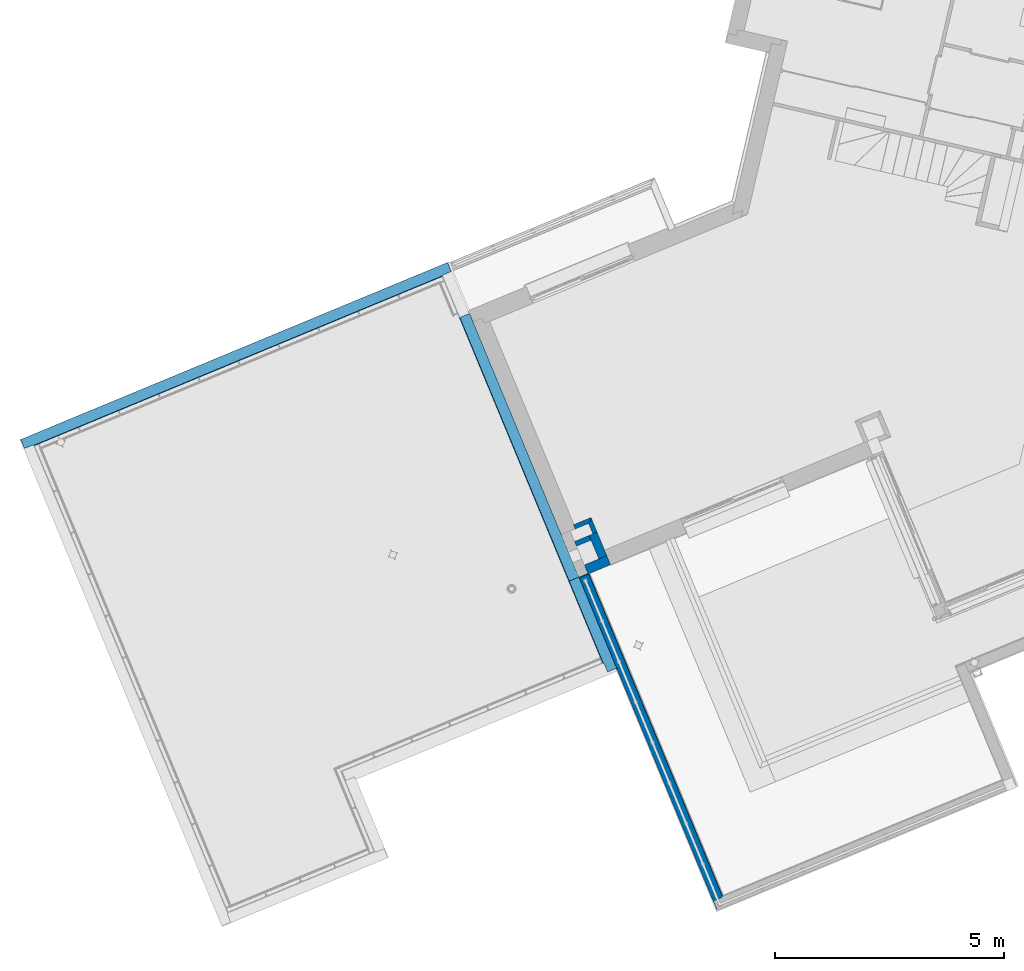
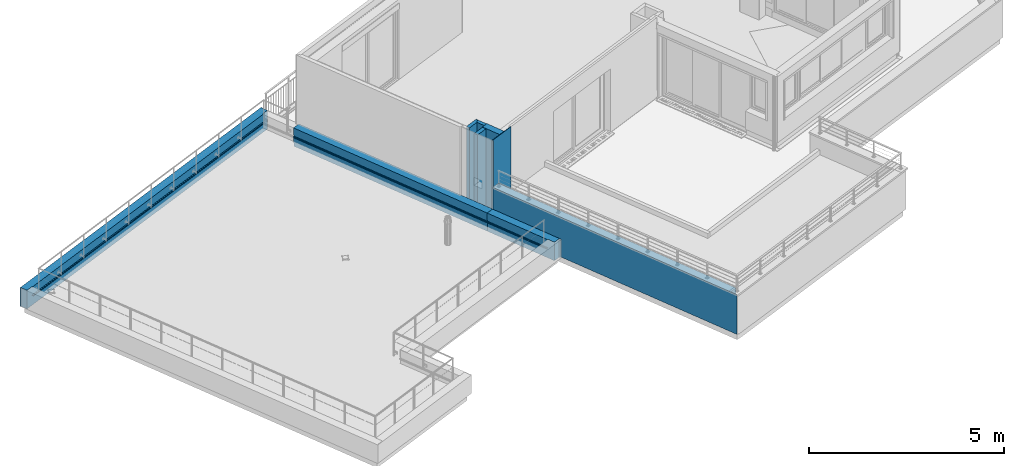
# One storey, part 19 of 62: 9 walls.
"""IFC2X3 building model written with IfcOpenShell, lengths in metres."""

import ifcopenshell
import ifcopenshell.guid

model = None  # the IFC model being written
_history = None  # IfcOwnerHistory: only IFC2X3 demands one
_inside = {}  # id of a spatial element -> (the spatial element, [elements in it])
_under = {}  # id of a project, library or spatial element -> (it, [spatial elements below it])
_declared = {}  # id of a project -> (the project, [libraries it declares])
_typed = {}  # id of a type object -> (the type object, [elements of that type])
_made_of = {}  # id of a material, layer set ... -> (it, [elements and type objects made of it])


def new_model(schema):
    """Start an empty IFC model of exactly this schema.

    Asked for "IFC4X3", IfcOpenShell would pick the latest addendum, in which some entities
    have other attributes; the version numbers below select the first issue.
    IFC2X3 requires an IfcOwnerHistory on every rooted entity: one is made here for all.
    """
    global model, _history
    if schema == "IFC4X3":
        model = ifcopenshell.file(schema_version=(4, 3, 0, 0))
    else:
        model = ifcopenshell.file(schema=schema)
    _inside.clear()
    _under.clear()
    _declared.clear()
    _typed.clear()
    _made_of.clear()
    _history = None
    if model.schema == "IFC2X3":
        org = make("IfcOrganization", Name="unknown")
        user = make(
            "IfcPersonAndOrganization",
            ThePerson=make("IfcPerson", FamilyName="unknown"),
            TheOrganization=org,
        )
        app = make(
            "IfcApplication",
            ApplicationDeveloper=org,
            Version="unknown",
            ApplicationFullName="unknown",
            ApplicationIdentifier="unknown",
        )
        _history = make(
            "IfcOwnerHistory",
            OwningUser=user,
            OwningApplication=app,
            ChangeAction="ADDED",
            CreationDate=0,
        )
    return model


def make(cls, **values):
    """One entity of the class cls with the attributes given. An attribute that is None is left unset."""
    return model.create_entity(
        cls, **{name: value for name, value in values.items() if value is not None}
    )


def entity(cls, *values):
    """Any entity or typed value of the class cls, its attributes in the order of the schema. None: left unset."""
    e = model.create_entity(cls)
    for i, value in enumerate(values):
        if value is not None:
            e[i] = value
    return e


def rooted(cls, **values):
    """An entity with a GlobalId (a new one), such as an element, a storey or a relation."""
    return make(cls, GlobalId=ifcopenshell.guid.new(), OwnerHistory=_history, **values)


def si_unit(unit_type, name, prefix=None):
    """IfcSIUnit, for example si_unit("LENGTHUNIT", "METRE", prefix="MILLI")."""
    return make("IfcSIUnit", UnitType=unit_type, Prefix=prefix, Name=name)


def converted_unit(unit_type, name, factor, base, dimensions=None, offset=None):
    """IfcConversionBasedUnit, such as the inch: factor (a typed value) times the base unit."""
    return make(
        "IfcConversionBasedUnit"
        if offset is None
        else "IfcConversionBasedUnitWithOffset",
        ConversionOffset=offset,
        Dimensions=None
        if dimensions is None
        else entity("IfcDimensionalExponents", *dimensions),
        UnitType=unit_type,
        Name=name,
        ConversionFactor=make(
            "IfcMeasureWithUnit", ValueComponent=factor, UnitComponent=base
        ),
    )


def derived_unit(unit_type, elements):
    """IfcDerivedUnit: a product of units, each with its exponent."""
    return make(
        "IfcDerivedUnit",
        Elements=[
            make("IfcDerivedUnitElement", Unit=unit, Exponent=power)
            for unit, power in elements
        ],
        UnitType=unit_type,
    )


def money_unit(currency):
    """IfcMonetaryUnit."""
    return make("IfcMonetaryUnit", Currency=currency)


def assignment(units):
    """IfcUnitAssignment: the units of a project."""
    return None if units is None else make("IfcUnitAssignment", Units=units)


def point(xyz):
    """IfcCartesianPoint."""
    return None if xyz is None else make("IfcCartesianPoint", Coordinates=xyz)


def direction(xyz):
    """IfcDirection."""
    return None if xyz is None else make("IfcDirection", DirectionRatios=xyz)


def frame(location, z_axis=None, x_axis=None):
    """IfcAxis2Placement3D, a coordinate frame: its origin and axes. An axis left out is left unset."""
    return make(
        "IfcAxis2Placement3D",
        Location=point(location),
        Axis=direction(z_axis),
        RefDirection=direction(x_axis),
    )


def origin_with_axes():
    """The frame at (0, 0, 0) with the z axis (0, 0, 1) and the x axis (1, 0, 0) written out."""
    return frame((0.0, 0.0, 0.0), z_axis=(0.0, 0.0, 1.0), x_axis=(1.0, 0.0, 0.0))


def place(relative_to, where):
    """IfcLocalPlacement: puts the frame where relative to a parent placement (None: the world)."""
    return make(
        "IfcLocalPlacement", PlacementRelTo=relative_to, RelativePlacement=where
    )


def context(
    kind, dimensions, precision=None, world=None, true_north=None, identifier=None
):
    """IfcGeometricRepresentationContext, for example the 3D "Model" context."""
    return make(
        "IfcGeometricRepresentationContext",
        ContextIdentifier=identifier,
        ContextType=kind,
        CoordinateSpaceDimension=dimensions,
        Precision=precision,
        WorldCoordinateSystem=world,
        TrueNorth=true_north,
    )


def subcontext(parent, identifier, kind, view, scale=None):
    """IfcGeometricRepresentationSubContext, for example "Body" below "Model"."""
    return make(
        "IfcGeometricRepresentationSubContext",
        ContextIdentifier=identifier,
        ContextType=kind,
        ParentContext=parent,
        TargetScale=scale,
        TargetView=view,
    )


def project(units=None, contexts=None):
    """IfcProject with its units and contexts."""
    return rooted(
        "IfcProject",
        Name="project",
        RepresentationContexts=contexts,
        UnitsInContext=assignment(units),
    )


def spatial(cls, under=None, at=None, **own):
    """A site, building, storey or space (cls), placed at a placement, below another one or the project."""
    s = rooted(cls, ObjectPlacement=at, **own)
    if under is not None:
        _under.setdefault(under.id(), (under, []))[1].append(s)
    return s


def faces_of(points, faces, orient=None, outer=None):
    """IfcFace entities. A face is a list of loops; a loop is a list of indices into points, from 0.

    orient and outer hold one flag for each loop. By default every Orientation is true, the
    first loop of a face is its IfcFaceOuterBound and the others are IfcFaceBound.
    """
    made = []
    for i, loops in enumerate(faces):
        bounds = []
        for j, loop in enumerate(loops):
            is_outer = j == 0 if outer is None else outer[i][j]
            bounds.append(
                make(
                    "IfcFaceOuterBound" if is_outer else "IfcFaceBound",
                    Bound=make("IfcPolyLoop", Polygon=[points[k] for k in loop]),
                    Orientation=True if orient is None else orient[i][j],
                )
            )
        made.append(make("IfcFace", Bounds=bounds))
    return made


def faceted_brep(points, faces, orient=None, outer=None, voids=None):
    """IfcFacetedBrep: a solid bounded by flat faces; with voids (closed shells), ...WithVoids."""
    shared = [point(p) for p in points]
    hull = make("IfcClosedShell", CfsFaces=faces_of(shared, faces, orient, outer))
    if voids is None:
        return make("IfcFacetedBrep", Outer=hull)
    return make(
        "IfcFacetedBrepWithVoids",
        Outer=hull,
        Voids=[
            make(cls, CfsFaces=faces_of(shared, fs, o, b)) for cls, fs, o, b in voids
        ],
    )


def shape(context_of_items, identifier, shape_type, items):
    """IfcShapeRepresentation: the items that make up one representation, for example the "Body"."""
    return make(
        "IfcShapeRepresentation",
        ContextOfItems=context_of_items,
        RepresentationIdentifier=identifier,
        RepresentationType=shape_type,
        Items=items,
    )


def material(Name=None, Category=None):
    """IfcMaterial."""
    return make("IfcMaterial", Name=Name, Category=Category)


def material_list(materials):
    """IfcMaterialList."""
    return make("IfcMaterialList", Materials=materials)


def made_of(thing, what):
    """Note that an element or type object is made of a material, layer set ...; save() writes the relation."""
    if what is not None:
        _made_of.setdefault(what.id(), (what, []))[1].append(thing)
    return thing


def type_object(cls, material=None, **own):
    """A type object (cls), such as IfcWallType, which elements share."""
    return made_of(rooted(cls, **own), material)


def element(
    cls,
    number,
    at=None,
    inside=None,
    cuts=None,
    type_object=None,
    material=None,
    context=None,
    identifier="Body",
    shape_type=None,
    held_by="IfcProductDefinitionShape",
    body=None,
    shapes=None,
    **own,
):
    """One element of the class cls, such as IfcWall. Its Tag is "e" and its number.

    at: its placement. inside: the storey or other place that contains it. cuts: it is an
    opening in that element (IfcRelVoidsElement). A single representation is given by context,
    identifier, shape_type and body (its items); several are given by shapes. held_by: the class
    of the entity that holds the representations. save() writes the other relations.
    """
    e = rooted(cls, Tag="e%d" % number, ObjectPlacement=at, **own)
    if body is not None:
        shapes = [shape(context, identifier, shape_type, body)]
    if shapes is not None:
        e.Representation = make(held_by, Representations=shapes)
    if inside is not None:
        _inside.setdefault(inside.id(), (inside, []))[1].append(e)
    if cuts is not None:
        rooted(
            "IfcRelVoidsElement", RelatingBuildingElement=cuts, RelatedOpeningElement=e
        )
    if type_object is not None:
        _typed.setdefault(type_object.id(), (type_object, []))[1].append(e)
    return made_of(e, material)


def aggregate(whole, parts):
    """IfcRelAggregates: a whole, such as a stair, and the parts it consists of."""
    return rooted("IfcRelAggregates", RelatingObject=whole, RelatedObjects=parts)


def save(model, path):
    """Write the relations noted so far, then the file.

    IfcRelAggregates (storeys below a building ...), IfcRelContainedInSpatialStructure (elements
    in a storey), IfcRelDefinesByType, IfcRelAssociatesMaterial and IfcRelDeclares: one each for
    every whole, place, type object, material and project.
    """
    for whole, parts in _under.values():
        aggregate(whole, parts)
    for where, things in _inside.values():
        rooted(
            "IfcRelContainedInSpatialStructure",
            RelatedElements=things,
            RelatingStructure=where,
        )
    for kind, things in _typed.values():
        rooted("IfcRelDefinesByType", RelatedObjects=things, RelatingType=kind)
    for what, things in _made_of.values():
        rooted("IfcRelAssociatesMaterial", RelatedObjects=things, RelatingMaterial=what)
    for by, libraries in _declared.values():
        rooted("IfcRelDeclares", RelatingContext=by, RelatedDefinitions=libraries)
    model.write(path)


model = new_model("IFC2X3")

# Units and contexts
model_context = context("Model", 3, precision=1e-05, world=origin_with_axes(), true_north=direction((0.0, 1.0)))
body_context = subcontext(model_context, "Body", "Model", "MODEL_VIEW")
ifc_project = project(units=[si_unit("LENGTHUNIT", "METRE"), si_unit("AREAUNIT", "SQUARE_METRE"), si_unit("VOLUMEUNIT", "CUBIC_METRE"), converted_unit("PLANEANGLEUNIT", "DEGREE", entity("IfcPlaneAngleMeasure", 0.0174532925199), si_unit("PLANEANGLEUNIT", "RADIAN"), dimensions=[0, 0, 0, 0, 0, 0, 0]), si_unit("SOLIDANGLEUNIT", "STERADIAN"), money_unit("EUR"), converted_unit("TIMEUNIT", "Year", entity("IfcTimeMeasure", 31556926.0), si_unit("TIMEUNIT", "SECOND"), dimensions=[0, 0, 1, 0, 0, 0, 0]), si_unit("MASSUNIT", "GRAM", prefix="KILO"), si_unit("THERMODYNAMICTEMPERATUREUNIT", "DEGREE_CELSIUS"), si_unit("LUMINOUSINTENSITYUNIT", "LUMEN"), si_unit("ENERGYUNIT", "JOULE", prefix="MEGA"), derived_unit("THERMALCONDUCTANCEUNIT", [(si_unit("POWERUNIT", "WATT"), 1), (si_unit("LENGTHUNIT", "METRE"), -1), (si_unit("THERMODYNAMICTEMPERATUREUNIT", "KELVIN"), -1)]), derived_unit("SPECIFICHEATCAPACITYUNIT", [(si_unit("ENERGYUNIT", "JOULE"), 1), (si_unit("MASSUNIT", "GRAM", prefix="KILO"), -1), (si_unit("THERMODYNAMICTEMPERATUREUNIT", "KELVIN"), -1)]), derived_unit("MASSDENSITYUNIT", [(si_unit("MASSUNIT", "GRAM", prefix="KILO"), 1), (si_unit("VOLUMEUNIT", "CUBIC_METRE"), -1)])], contexts=[model_context])

# Site, building, storey
site_placement = place(None, origin_with_axes())
site = spatial("IfcSite", under=ifc_project, at=site_placement, Name="Site", CompositionType="ELEMENT")
building_placement = place(site_placement, origin_with_axes())
building = spatial("IfcBuilding", under=site, at=building_placement, Name="Bâtiment", CompositionType="ELEMENT")
storey_placement = place(building_placement, frame((0.0, 0.0, 8.16), z_axis=(0.0, 0.0, 1.0), x_axis=(1.0, 0.0, 0.0)))
storey = spatial("IfcBuildingStorey", under=building, at=storey_placement, Name="R+3", CompositionType="ELEMENT", Elevation=8.16)

# Walls
ifc_material_1 = material(Name="Finition int - Enduit plâtre")
ifc_material_2 = material(Name="Béton")
ifc_material_list_1 = material_list([ifc_material_1, ifc_material_2])
wall_type_1 = type_object("IfcWallType", Name="2 - Murs Béton 18 + Enduit 1 Face 190", PredefinedType="USERDEFINED")
wall_1_placement = place(storey_placement, frame((-22.9500964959, -20.0325089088, 0.0), z_axis=(0.0, 0.0, 1.0), x_axis=(0.3831125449, -0.923701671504, 0.0)))
element("IfcWall", 1, at=wall_1_placement, inside=storey, type_object=wall_type_1, material=ifc_material_list_1, Name="M_Ext-008", ObjectType="SOLIDWALL", context=body_context, shape_type="Brep", body=[
    faceted_brep([(0.0, 0.19, 0.0), (0.555635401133, 0.19, 0.0), (0.555635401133, 0.18, 0.0), (0.0, 0.18, 0.0), (0.0, 0.19, 2.51), (0.555635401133, 0.19, 2.51), (0.555635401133, 0.18, 2.51), (0.0, 0.18, 2.51)], [[[0, 1, 2, 3]], [[4, 5, 1, 0]], [[2, 1, 5, 6]], [[3, 2, 6, 7]], [[4, 0, 3, 7]], [[7, 6, 5, 4]]]),
    faceted_brep([(0.0, 0.18, 0.0), (0.555635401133, 0.18, 0.0), (0.555635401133, 0.0, 0.0), (0.0, 0.0, 0.0), (0.0, 0.18, 2.51), (0.555635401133, 0.18, 2.51), (0.555635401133, 0.0, 2.51), (0.0, 0.0, 2.51)], [[[0, 1, 2, 3]], [[4, 5, 1, 0]], [[2, 1, 5, 6]], [[3, 2, 6, 7]], [[4, 0, 3, 7]], [[7, 6, 5, 4]]]),
])
ifc_material_3 = material(Name="Finition int - Plaque de plâtre")
ifc_material_4 = material(Name="Isolation - Laine de roche")
ifc_material_list_2 = material_list([ifc_material_3, ifc_material_3, ifc_material_4, ifc_material_3, ifc_material_3])
wall_type_2 = type_object("IfcWallType", Name="3 - Cloison Gaine Technique 98mm 100", PredefinedType="USERDEFINED")
wall_2_placement = place(storey_placement, frame((-23.291347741, -19.7979884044, 0.0), z_axis=(0.0, 0.0, 1.0), x_axis=(0.923701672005, 0.383112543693, 0.0)))
element("IfcWall", 2, at=wall_2_placement, inside=storey, type_object=wall_type_2, material=ifc_material_list_2, Name="Cloison 98 isolée", ObjectType="PARTITIONING", context=body_context, shape_type="Brep", body=[
    faceted_brep([(0.415366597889, -0.013, 2.5), (0.415366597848, 0.0, 2.5), (0.0, 0.0, 2.5), (0.0, -0.013, 2.5), (0.415366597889, -0.013, 0.0), (0.415366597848, 0.0, 0.0), (0.0, 0.0, 0.0), (0.0, -0.013, 0.0)], [[[0, 1, 2, 3]], [[1, 0, 4, 5]], [[1, 5, 6, 2]], [[7, 3, 2, 6]], [[4, 0, 3, 7]], [[5, 4, 7, 6]]]),
    faceted_brep([(0.40236659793, -0.026, 2.5), (0.402366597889, -0.013, 2.5), (0.0, -0.013, 2.5), (0.0, -0.026, 2.5), (0.40236659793, -0.026, 0.0), (0.402366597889, -0.013, 0.0), (0.0, -0.013, 0.0), (0.0, -0.026, 0.0)], [[[0, 1, 2, 3]], [[1, 0, 4, 5]], [[1, 5, 6, 2]], [[7, 3, 2, 6]], [[4, 0, 3, 7]], [[5, 4, 7, 6]]]),
    faceted_brep([(0.389366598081, -0.074, 2.5), (0.38936659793, -0.026, 2.5), (0.0, -0.026, 2.5), (0.0, -0.074, 2.5), (0.389366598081, -0.074, 0.0), (0.38936659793, -0.026, 0.0), (0.0, -0.026, 0.0), (0.0, -0.074, 0.0)], [[[0, 1, 2, 3]], [[1, 0, 4, 5]], [[1, 5, 6, 2]], [[7, 3, 2, 6]], [[4, 0, 3, 7]], [[5, 4, 7, 6]]]),
    faceted_brep([(0.341366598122, -0.087, 2.5), (0.341366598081, -0.074, 2.5), (0.0, -0.074, 2.5), (0.0, -0.087, 2.5), (0.341366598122, -0.087, 0.0), (0.341366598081, -0.074, 0.0), (0.0, -0.074, 0.0), (0.0, -0.087, 0.0)], [[[0, 1, 2, 3]], [[1, 0, 4, 5]], [[1, 5, 6, 2]], [[7, 3, 2, 6]], [[4, 0, 3, 7]], [[5, 4, 7, 6]]]),
    faceted_brep([(0.328366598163, -0.1, 2.5), (0.328366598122, -0.087, 2.5), (0.0, -0.087, 2.5), (0.0, -0.1, 2.5), (0.328366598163, -0.1, 0.0), (0.328366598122, -0.087, 0.0), (0.0, -0.087, 0.0), (0.0, -0.1, 0.0)], [[[0, 1, 2, 3]], [[1, 0, 4, 5]], [[1, 5, 6, 2]], [[7, 3, 2, 6]], [[4, 0, 3, 7]], [[5, 4, 7, 6]]]),
])
wall_3_placement = place(storey_placement, frame((-22.90767292, -19.6388562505, 0.0), z_axis=(0.0, 0.0, 1.0), x_axis=(0.3831125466, -0.9237016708, 0.0)))
element("IfcWall", 3, at=wall_3_placement, inside=storey, type_object=wall_type_2, material=ifc_material_list_2, Name="Cloison 98 isolée", ObjectType="PARTITIONING", context=body_context, shape_type="Brep", body=[
    faceted_brep([(0.0129999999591, -0.013, 2.5), (0.34736461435, -0.013, 2.5), (0.34736461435, 0.0, 2.5), (0.013, 0.0, 2.5), (0.0129999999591, -0.013, 0.0), (0.34736461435, -0.013, 0.0), (0.34736461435, 0.0, 0.0), (0.013, 0.0, 0.0)], [[[0, 1, 2, 3]], [[4, 5, 1, 0]], [[2, 1, 5, 6]], [[3, 2, 6, 7]], [[4, 0, 3, 7]], [[7, 6, 5, 4]]]),
    faceted_brep([(0.0259999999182, -0.026, 2.5), (0.34736461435, -0.026, 2.5), (0.34736461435, -0.013, 2.5), (0.0259999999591, -0.013, 2.5), (0.0259999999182, -0.026, 0.0), (0.34736461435, -0.026, 0.0), (0.34736461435, -0.013, 0.0), (0.0259999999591, -0.013, 0.0)], [[[0, 1, 2, 3]], [[4, 5, 1, 0]], [[2, 1, 5, 6]], [[3, 2, 6, 7]], [[4, 0, 3, 7]], [[7, 6, 5, 4]]]),
    faceted_brep([(0.0739999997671, -0.074, 2.5), (0.34736461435, -0.074, 2.5), (0.34736461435, -0.026, 2.5), (0.0739999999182, -0.026, 2.5), (0.0739999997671, -0.074, 0.0), (0.34736461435, -0.074, 0.0), (0.34736461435, -0.026, 0.0), (0.0739999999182, -0.026, 0.0)], [[[0, 1, 2, 3]], [[4, 5, 1, 0]], [[2, 1, 5, 6]], [[3, 2, 6, 7]], [[4, 0, 3, 7]], [[7, 6, 5, 4]]]),
    faceted_brep([(0.0869999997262, -0.087, 2.5), (0.34736461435, -0.087, 2.5), (0.34736461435, -0.074, 2.5), (0.0869999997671, -0.074, 2.5), (0.0869999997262, -0.087, 0.0), (0.34736461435, -0.087, 0.0), (0.34736461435, -0.074, 0.0), (0.0869999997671, -0.074, 0.0)], [[[0, 1, 2, 3]], [[4, 5, 1, 0]], [[2, 1, 5, 6]], [[3, 2, 6, 7]], [[4, 0, 3, 7]], [[7, 6, 5, 4]]]),
    faceted_brep([(0.0999999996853, -0.1, 2.5), (0.34736461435, -0.1, 2.5), (0.34736461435, -0.087, 2.5), (0.0999999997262, -0.087, 2.5), (0.0999999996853, -0.1, 0.0), (0.34736461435, -0.1, 0.0), (0.34736461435, -0.087, 0.0), (0.0999999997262, -0.087, 0.0)], [[[0, 1, 2, 3]], [[4, 5, 1, 0]], [[2, 1, 5, 6]], [[3, 2, 6, 7]], [[4, 0, 3, 7]], [[7, 6, 5, 4]]]),
])
ifc_material_5 = material(Name="Finition int - Plaque type PROMAT 5cm")
ifc_material_list_3 = material_list([ifc_material_3, ifc_material_4, ifc_material_5])
wall_type_3 = type_object("IfcWallType", Name="3 - Cloison CF 2H PROMAT 111", PredefinedType="USERDEFINED")
wall_4_placement = place(storey_placement, frame((-23.4113270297, -20.3439765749, 0.0), z_axis=(0.0, 0.0, 1.0), x_axis=(0.923701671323, 0.383112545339, 0.0)))
element("IfcWall", 4, at=wall_4_placement, inside=storey, type_object=wall_type_3, material=ifc_material_list_3, Name="Cloison CF Promat 5cm", ObjectType="PARTITIONING", context=body_context, shape_type="Brep", body=[
    faceted_brep([(0.54536658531, 0.111, 2.5), (0.200000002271, 0.111, 2.5), (0.200000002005, 0.098, 2.5), (0.545366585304, 0.098, 2.5), (0.54536658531, 0.111, 0.0), (0.200000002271, 0.111, 0.0), (0.200000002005, 0.098, 0.0), (0.545366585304, 0.098, 0.0)], [[[0, 1, 2, 3]], [[4, 5, 1, 0]], [[5, 6, 2, 1]], [[3, 2, 6, 7]], [[4, 0, 3, 7]], [[7, 6, 5, 4]]]),
    faceted_brep([(0.545366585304, 0.098, 2.5), (0.200000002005, 0.098, 2.5), (0.200000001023, 0.05, 2.5), (0.545366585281, 0.05, 2.5), (0.545366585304, 0.098, 0.0), (0.200000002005, 0.098, 0.0), (0.200000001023, 0.05, 0.0), (0.545366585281, 0.05, 0.0)], [[[0, 1, 2, 3]], [[4, 5, 1, 0]], [[5, 6, 2, 1]], [[3, 2, 6, 7]], [[4, 0, 3, 7]], [[7, 6, 5, 4]]]),
    faceted_brep([(0.545366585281, 0.05, 2.5), (0.200000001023, 0.05, 2.5), (0.2, 0.0, 2.5), (0.545366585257, 0.0, 2.5), (0.545366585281, 0.05, 0.0), (0.200000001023, 0.05, 0.0), (0.2, 0.0, 0.0), (0.545366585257, 0.0, 0.0)], [[[0, 1, 2, 3]], [[4, 5, 1, 0]], [[5, 6, 2, 1]], [[3, 2, 6, 7]], [[4, 0, 3, 7]], [[7, 6, 5, 4]]]),
])
ifc_material_6 = material(Name="Finition ext - Crépis")
ifc_material_list_4 = material_list([ifc_material_6, ifc_material_2])
wall_type_4 = type_object("IfcWallType", Name="1 - Mur BETON 20+ ravalement 1 face 215", PredefinedType="USERDEFINED")
wall_5_placement = place(storey_placement, frame((-22.4850997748, -20.6576992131, 0.0), z_axis=(0.0, 0.0, 1.0), x_axis=(-0.923701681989, -0.38311251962, 0.0)))
element("IfcWall", 5, at=wall_5_placement, inside=storey, type_object=wall_type_4, material=ifc_material_list_4, Name="M_Ext-009", ObjectType="SOLIDWALL", context=body_context, shape_type="Brep", body=[
    faceted_brep([(0.535366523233, 0.015, 0.0), (0.535366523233, 0.015, 0.1), (0.0, 0.015, 0.1), (0.0, 0.015, 2.74), (0.750366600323, 0.015, 2.73999999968), (0.75036659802, 0.015, 2.72), (0.73536659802, 0.015, 2.72), (0.73536659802, 0.015, 0.0), (0.53536652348, -3.28998694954e-09, 0.0), (0.53536652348, -3.28998694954e-09, 0.1), (0.0, -1.88589748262e-08, 0.1), (0.0, 0.0, 2.74), (0.750366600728, 0.0, 2.73999999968), (0.75036659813, 0.0, 2.72), (0.73536659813, 0.0, 2.72), (0.73536659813, 0.0, 0.0)], [[[0, 1, 2, 3, 4, 5, 6, 7]], [[1, 0, 8, 9]], [[10, 2, 1, 9]], [[2, 10, 11, 3]], [[3, 11, 12, 4]], [[12, 13, 5, 4]], [[14, 6, 5, 13]], [[15, 7, 6, 14]], [[8, 0, 7, 15]], [[9, 8, 15, 14, 13, 12, 11, 10]]]),
    faceted_brep([(0.0, -0.2, 2.51), (0.0, -7.17849903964e-08, 2.51), (0.0, 0.0, 0.0), (0.0, -0.2, 0.0), (0.53536659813, -6.13296702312e-08, 2.51), (0.535366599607, -0.2, 2.51), (0.53536659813, 0.0, 0.0), (0.535366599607, -0.2, 0.0)], [[[0, 1, 2, 3]], [[4, 1, 0, 5]], [[1, 4, 6, 2]], [[2, 6, 7, 3]], [[5, 0, 3, 7]], [[4, 5, 7, 6]]]),
])
ifc_material_7 = material(Name="Etanchéité - Bitume")
ifc_material_8 = material(Name="Métal - Aluminium")
ifc_material_list_5 = material_list([ifc_material_6, ifc_material_2, ifc_material_7, ifc_material_6, ifc_material_8])
wall_type_5 = type_object("IfcWallType", Name="Acrotère pour plancher 21 isolée 242 x 580", PredefinedType="USERDEFINED")
wall_6_placement = place(storey_placement, frame((-23.1735961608, -20.943258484, 0.0), z_axis=(0.0, 0.0, 1.0), x_axis=(0.383112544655, -0.923701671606, 0.0)))
element("IfcWall", 6, at=wall_6_placement, inside=storey, type_object=wall_type_5, material=ifc_material_list_5, Name="Muret béton 20cm", ObjectType="PARAPET", context=body_context, shape_type="Brep", body=[
    faceted_brep([(0.0, -0.01499999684, 0.580000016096), (2.19744913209, -0.01499999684, 0.58000001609), (2.19744913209, 1.62940949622e-09, 0.580000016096), (0.0, 0.0, 0.580000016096), (0.0, -0.01499999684, 0.0), (2.19744913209, -0.01499999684, 0.0), (2.19744913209, 1.6294059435e-09, 0.0), (0.0, 0.0, 0.0)], [[[0, 1, 2, 3]], [[1, 0, 4, 5]], [[6, 2, 1, 5]], [[3, 2, 6, 7]], [[3, 7, 4, 0]], [[7, 6, 5, 4]]]),
    faceted_brep([(0.0, -0.21500000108, 0.580000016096), (2.1574491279, -0.21500000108, 0.580000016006), (2.1574491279, -0.015, 0.58000001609), (0.0, -0.015, 0.580000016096), (2.1574491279, -0.21500000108, 0.318976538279), (0.0, -0.21500000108, 0.318976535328), (2.1574491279, -0.015, 0.0), (2.1574491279, -0.21500000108, 0.30999999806), (2.1574491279, -0.21500000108, 0.0999999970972), (2.1574491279, -0.21500000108, 0.0), (0.0, -0.015, 0.0), (0.0, -0.21500000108, 0.310000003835), (0.0, -0.21500000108, 0.0), (0.0, -0.21500000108, 0.0999999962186)], [[[0, 1, 2, 3]], [[4, 1, 0, 5]], [[6, 2, 1, 4, 7, 8, 9]], [[3, 2, 6, 10]], [[11, 5, 0, 3, 10, 12, 13]], [[11, 7, 4, 5]], [[8, 7, 11, 13]], [[12, 9, 8, 13]], [[10, 6, 9, 12]]]),
    faceted_brep([(1.9574491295, -0.224999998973, 0.11), (1.9574491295, -0.215000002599, 0.11), (1.95744912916, -0.21500000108, 0.30999999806), (1.95744912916, -0.224999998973, 0.30999999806), (0.0, -0.215000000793, 0.11), (0.0, -0.224999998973, 0.11), (0.0, -0.21500000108, 0.310000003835), (0.0, -0.224999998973, 0.310000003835)], [[[0, 1, 2, 3]], [[4, 1, 0, 5]], [[1, 4, 6, 2]], [[7, 3, 2, 6]], [[5, 0, 3, 7]], [[4, 5, 7, 6]]]),
    faceted_brep([(1.95744912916, -0.22999999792, 0.580000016), (1.95744912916, -0.21500000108, 0.580000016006), (0.0, -0.21500000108, 0.580000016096), (0.0, -0.22999999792, 0.580000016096), (1.95744912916, -0.21500000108, 0.357041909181), (1.95744912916, -0.22999999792, 0.35704190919), (1.95744912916, -0.216045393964, 0.357041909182), (0.0, -0.21500000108, 0.357041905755), (0.0, -0.216045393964, 0.357041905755), (0.0, -0.22999999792, 0.357041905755)], [[[0, 1, 2, 3]], [[4, 1, 0, 5, 6]], [[1, 4, 7, 2]], [[8, 9, 3, 2, 7]], [[5, 0, 3, 9]], [[6, 5, 9, 8]], [[4, 6, 8, 7]]]),
    faceted_brep([(1.95744912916, -0.216045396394, 0.357041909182), (1.95744912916, -0.215, 0.357041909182), (0.0, -0.215, 0.357041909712), (0.0, -0.216045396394, 0.357041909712), (1.95744912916, -0.215, 0.318976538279), (1.95744912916, -0.216045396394, 0.320023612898), (1.95744912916, -0.219574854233, 0.318976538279), (0.0, -0.215, 0.318976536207), (0.0, -0.241250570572, 0.282882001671), (0.0, -0.242484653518, 0.282882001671), (0.0, -0.242484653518, 0.312179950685), (0.0, -0.216045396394, 0.320023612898), (0.0, -0.241250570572, 0.311101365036), (1.93479385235, -0.242484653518, 0.312179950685), (1.93119855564, -0.242484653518, 0.311101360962), (1.93119855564, -0.241250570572, 0.311101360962), (1.93119855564, -0.241250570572, 0.282882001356), (1.93119855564, -0.242484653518, 0.282882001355), (1.93119855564, -0.242484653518, 0.30999999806), (1.93119855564, -0.241250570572, 0.30999999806)], [[[0, 1, 2, 3]], [[4, 1, 0, 5, 6]], [[1, 4, 7, 2]], [[8, 9, 10, 11, 3, 2, 7, 12]], [[5, 0, 3, 11]], [[6, 5, 11, 10, 13]], [[4, 6, 13, 14, 15]], [[4, 15, 12, 7]], [[16, 17, 9, 8]], [[14, 13, 10, 9, 17, 18]], [[15, 19, 16, 8, 12]], [[19, 15, 14, 18]], [[19, 18, 17, 16]]]),
])
wall_7_placement = place(storey_placement, frame((-25.5660336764, -15.1749834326, 0.0), z_axis=(0.0, 0.0, 1.0), x_axis=(0.383112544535, -0.923701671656, 0.0)))
element("IfcWall", 7, at=wall_7_placement, inside=storey, type_object=wall_type_5, material=ifc_material_list_5, Name="Muret béton 20cm", ObjectType="PARAPET", context=body_context, shape_type="Brep", body=[
    faceted_brep([(0.0, -0.01499999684, 0.580000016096), (6.2447381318, -0.01499999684, 0.580000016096), (6.2447381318, 0.0, 0.580000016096), (0.0, 0.0, 0.580000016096), (0.0, -0.01499999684, 0.0), (6.2447381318, -0.01499999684, 0.0), (6.2447381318, 0.0, 0.0), (0.0, 0.0, 0.0)], [[[0, 1, 2, 3]], [[4, 5, 1, 0]], [[2, 1, 5, 6]], [[3, 2, 6, 7]], [[4, 0, 3, 7]], [[7, 6, 5, 4]]]),
    faceted_brep([(0.0, -0.015, 0.580000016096), (6.2447381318, -0.015, 0.580000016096), (6.2447381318, -0.015, 0.0), (0.0, -0.015, 0.0), (0.0, -0.21500000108, 0.580000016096), (6.2447381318, -0.21500000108, 0.580000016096), (6.2447381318, -0.21500000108, 0.318976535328), (6.2447381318, -0.21500000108, 0.310000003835), (6.2447381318, -0.21500000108, 0.0999999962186), (6.2447381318, -0.21500000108, 0.0), (0.0, -0.21500000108, 0.0), (0.0, -0.21500000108, 0.0999999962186), (0.0, -0.21500000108, 0.310000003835), (0.0, -0.21500000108, 0.318976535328)], [[[0, 1, 2, 3]], [[4, 5, 1, 0]], [[2, 1, 5, 6, 7, 8, 9]], [[3, 2, 9, 10]], [[4, 0, 3, 10, 11, 12, 13]], [[13, 6, 5, 4]], [[12, 7, 6, 13]], [[11, 8, 7, 12]], [[10, 9, 8, 11]]]),
    faceted_brep([(6.2447381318, -0.224999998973, 0.11), (6.2447381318, -0.215000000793, 0.11), (6.2447381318, -0.21500000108, 0.310000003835), (6.2447381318, -0.224999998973, 0.310000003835), (0.0, -0.214999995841, 0.11), (0.0, -0.224999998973, 0.11), (0.0, -0.21500000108, 0.310000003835), (0.0, -0.224999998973, 0.310000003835)], [[[0, 1, 2, 3]], [[4, 1, 0, 5]], [[1, 4, 6, 2]], [[7, 3, 2, 6]], [[5, 0, 3, 7]], [[4, 5, 7, 6]]]),
    faceted_brep([(6.2447381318, -0.22999999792, 0.580000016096), (6.2447381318, -0.21500000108, 0.580000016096), (0.0, -0.21500000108, 0.580000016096), (0.0, -0.22999999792, 0.580000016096), (6.2447381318, -0.22999999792, 0.357041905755), (6.2447381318, -0.216045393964, 0.357041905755), (6.2447381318, -0.21500000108, 0.357041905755), (0.0, -0.21500000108, 0.357041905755), (0.0, -0.216045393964, 0.357041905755), (0.0, -0.22999999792, 0.357041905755)], [[[0, 1, 2, 3]], [[0, 4, 5, 6, 1]], [[1, 6, 7, 2]], [[3, 2, 7, 8, 9]], [[4, 0, 3, 9]], [[5, 4, 9, 8]], [[6, 5, 8, 7]]]),
    faceted_brep([(6.2447381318, -0.242484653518, 0.312179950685), (6.2447381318, -0.216045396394, 0.320023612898), (0.0, -0.216045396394, 0.320023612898), (0.0, -0.242484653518, 0.312179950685), (6.2447381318, -0.242484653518, 0.282882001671), (6.2447381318, -0.241250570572, 0.282882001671), (6.2447381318, -0.241250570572, 0.311101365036), (6.2447381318, -0.215, 0.318976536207), (6.2447381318, -0.215, 0.357041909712), (6.2447381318, -0.216045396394, 0.357041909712), (0.0, -0.216045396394, 0.357041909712), (0.0, -0.215, 0.357041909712), (0.0, -0.215, 0.318976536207), (0.0, -0.241250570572, 0.311101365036), (0.0, -0.241250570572, 0.282882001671), (0.0, -0.242484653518, 0.282882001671)], [[[0, 1, 2, 3]], [[0, 4, 5, 6, 7, 8, 9, 1]], [[1, 9, 10, 2]], [[3, 2, 10, 11, 12, 13, 14, 15]], [[4, 0, 3, 15]], [[5, 4, 15, 14]], [[6, 5, 14, 13]], [[7, 6, 13, 12]], [[8, 7, 12, 11]], [[9, 8, 11, 10]]]),
])
wall_8_placement = place(storey_placement, frame((-35.4006368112, -17.9386027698, 0.0), z_axis=(0.0, 0.0, 1.0), x_axis=(0.92370167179, 0.383112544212, 0.0)))
element("IfcWall", 8, at=wall_8_placement, inside=storey, type_object=wall_type_5, material=ifc_material_list_5, Name="Muret béton 20cm", ObjectType="PARAPET", context=body_context, shape_type="Brep", body=[
    faceted_brep([(3.32599370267e-09, -0.01499999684, 0.0), (10.1430165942, -0.01499999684, 0.0), (10.1430165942, -0.01499999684, 0.580000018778), (3.32599370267e-09, -0.01499999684, 0.580000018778), (3.31885985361e-09, 0.0, 0.0), (10.1430165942, 0.0, 0.0), (10.1430165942, 0.0, 0.580000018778), (3.31885985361e-09, 0.0, 0.580000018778)], [[[0, 1, 2, 3]], [[4, 5, 1, 0]], [[5, 6, 2, 1]], [[3, 2, 6, 7]], [[4, 0, 3, 7]], [[7, 6, 5, 4]]]),
    faceted_brep([(10.1280165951, -0.21500000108, 0.318976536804), (10.1280165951, -0.21500000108, 0.580000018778), (0.0149999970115, -0.21500000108, 0.580000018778), (0.0149999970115, -0.21500000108, 0.318976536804), (10.128016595, -0.015, 0.0), (10.128016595, -0.015, 0.580000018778), (10.1280165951, -0.21500000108, 0.309999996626), (10.1280165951, -0.21500000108, 0.0999999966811), (10.1280165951, -0.21500000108, 0.0), (0.0149999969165, -0.015, 0.580000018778), (0.0149999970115, -0.21500000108, 0.0), (0.0149999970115, -0.21500000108, 0.0999999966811), (0.0149999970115, -0.21500000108, 0.309999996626), (0.0149999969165, -0.015, 0.0)], [[[0, 1, 2, 3]], [[4, 5, 1, 0, 6, 7, 8]], [[2, 1, 5, 9]], [[10, 11, 12, 3, 2, 9, 13]], [[12, 6, 0, 3]], [[9, 5, 4, 13]], [[7, 6, 12, 11]], [[10, 8, 7, 11]], [[13, 4, 8, 10]]]),
    faceted_brep([(0.21499999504, -0.224999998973, 0.11), (9.92801659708, -0.224999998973, 0.11), (9.92801659, -0.224999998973, 0.309999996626), (0.215000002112, -0.224999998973, 0.309999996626), (9.92801659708, -0.21499999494, 0.11), (0.214999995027, -0.21499999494, 0.11), (9.92801659, -0.21500000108, 0.309999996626), (0.215000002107, -0.21500000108, 0.309999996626)], [[[0, 1, 2, 3]], [[4, 1, 0, 5]], [[1, 4, 6, 2]], [[3, 2, 6, 7]], [[5, 0, 3, 7]], [[4, 5, 7, 6]]]),
    faceted_brep([(9.92801659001, -0.22999999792, 0.357041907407), (9.92801659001, -0.22999999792, 0.580000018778), (0.215000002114, -0.22999999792, 0.580000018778), (0.215000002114, -0.22999999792, 0.357041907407), (9.92801659, -0.21500000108, 0.580000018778), (9.92801659, -0.216045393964, 0.357041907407), (9.92801659, -0.21500000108, 0.357041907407), (0.215000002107, -0.21500000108, 0.580000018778), (0.215000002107, -0.21500000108, 0.357041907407), (0.215000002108, -0.216045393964, 0.357041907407)], [[[0, 1, 2, 3]], [[4, 1, 0, 5, 6]], [[1, 4, 7, 2]], [[3, 2, 7, 8, 9]], [[5, 0, 3, 9]], [[6, 5, 9, 8]], [[4, 6, 8, 7]]]),
    faceted_brep([(9.92801659, -0.215, 0.318976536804), (9.92801659, -0.219574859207, 0.318976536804), (9.90536129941, -0.242484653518, 0.312179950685), (9.90176602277, -0.242484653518, 0.311101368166), (9.90176602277, -0.241250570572, 0.311101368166), (9.92801659, -0.216045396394, 0.320023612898), (9.92801659, -0.215, 0.357041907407), (9.92801659, -0.216045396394, 0.357041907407), (0.215000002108, -0.216045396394, 0.320023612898), (0.215000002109, -0.219574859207, 0.318976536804), (0.237655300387, -0.242484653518, 0.312179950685), (0.24125057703, -0.242484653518, 0.311101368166), (0.24125057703, -0.242484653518, 0.309999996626), (0.24125057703, -0.242484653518, 0.282882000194), (9.90176602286, -0.242484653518, 0.282882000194), (9.90176602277, -0.242484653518, 0.309999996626), (9.90176602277, -0.241250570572, 0.309999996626), (0.241250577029, -0.241250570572, 0.311101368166), (0.215000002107, -0.215, 0.318976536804), (0.215000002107, -0.215, 0.357041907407), (0.215000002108, -0.216045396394, 0.357041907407), (0.241250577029, -0.241250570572, 0.309999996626), (0.241250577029, -0.241250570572, 0.282882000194), (9.90176602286, -0.241250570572, 0.282882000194)], [[[0, 1, 2, 3, 4]], [[5, 1, 0, 6, 7]], [[1, 5, 8, 9, 10, 2]], [[3, 2, 10, 11, 12, 13, 14, 15]], [[3, 15, 16, 4]], [[0, 4, 17, 18]], [[6, 0, 18, 19]], [[7, 6, 19, 20]], [[5, 7, 20, 8]], [[18, 9, 8, 20, 19]], [[9, 18, 17, 11, 10]], [[12, 11, 17, 21]], [[12, 21, 22, 13]], [[23, 14, 13, 22]], [[16, 15, 14, 23]], [[4, 16, 23, 22, 21, 17]]]),
])
ifc_material_list_6 = material_list([ifc_material_8, ifc_material_6, ifc_material_7, ifc_material_2, ifc_material_6])
wall_type_6 = type_object("IfcWallType", Name="Acrotère pour plancher 23 isolée 242 x 1260", PredefinedType="USERDEFINED")
wall_9_placement = place(storey_placement, frame((-23.1724679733, -20.9590295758, 0.0), z_axis=(0.0, 0.0, 1.0), x_axis=(0.383112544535, -0.923701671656, 0.0)))
element("IfcWall", 9, at=wall_9_placement, inside=storey, type_object=wall_type_6, material=ifc_material_list_6, Name="Muret béton 20cm", ObjectType="PARAPET", context=body_context, shape_type="Brep", body=[
    faceted_brep([(7.66085538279, 0.216045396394, 0.320023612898), (7.65732594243, 0.21957483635, 0.318976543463), (7.63441612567, 0.242484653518, 0.312179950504), (0.0, 0.242484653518, 0.312179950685), (0.0, 0.216045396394, 0.320023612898), (7.65732594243, 0.215, 0.318976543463), (7.66085538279, 0.215, 0.320023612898), (7.63441612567, 0.237655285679, 0.312179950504), (7.63441612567, 0.242484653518, 0.30999999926), (7.63441612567, 0.242484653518, 0.282882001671), (0.0, 0.242484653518, 0.282882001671), (0.0, 0.241250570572, 0.282882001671), (0.0, 0.241250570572, 0.311101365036), (0.0, 0.215, 0.318976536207), (0.0, 0.215, 0.357041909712), (0.0, 0.216045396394, 0.357041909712), (7.66085538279, 0.216045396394, 0.357041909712), (7.66085538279, 0.215, 0.357041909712), (7.63441612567, 0.241250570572, 0.311101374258), (7.63441612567, 0.241250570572, 0.30999999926), (7.63441612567, 0.241250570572, 0.282882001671)], [[[0, 1, 2, 3, 4]], [[5, 1, 0, 6]], [[1, 5, 7, 2]], [[2, 8, 9, 10, 3]], [[4, 3, 10, 11, 12, 13, 14, 15]], [[16, 0, 4, 15]], [[0, 16, 17, 6]], [[6, 17, 14, 13, 5]], [[7, 5, 13, 12, 18]], [[8, 2, 7, 18, 19]], [[8, 19, 20, 9]], [[9, 20, 11, 10]], [[19, 18, 12, 11, 20]], [[17, 16, 15, 14]]]),
    faceted_brep([(7.64690077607, 0.21499999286, 1.26000604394), (7.64690077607, 0.230000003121, 1.26000604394), (0.0, 0.230000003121, 1.26000604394), (0.0, 0.21499999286, 1.26000604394), (7.64690077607, 0.230000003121, 0.357041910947), (7.64690077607, 0.21499999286, 0.357041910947), (7.64690077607, 0.216045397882, 0.357041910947), (0.0, 0.230000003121, 0.357041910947), (0.0, 0.216045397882, 0.357041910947), (0.0, 0.21499999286, 0.357041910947)], [[[0, 1, 2, 3]], [[4, 1, 0, 5, 6]], [[1, 4, 7, 2]], [[3, 2, 7, 8, 9]], [[5, 0, 3, 9]], [[6, 5, 9, 8]], [[4, 6, 8, 7]]]),
    faceted_brep([(7.65190078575, 0.214999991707, 0.150000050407), (7.65190078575, 0.224999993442, 0.150000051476), (7.65190078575, 0.224999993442, 0.282882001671), (7.65190078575, 0.21499999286, 0.282882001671), (0.00243693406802, 0.224999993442, 0.150000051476), (0.00245388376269, 0.214999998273, 0.150000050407), (0.00243693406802, 0.224999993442, 0.110000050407), (0.0, 0.224999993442, 0.11), (0.0, 0.224999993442, 0.30999999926), (7.65190078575, 0.224999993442, 0.30999999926), (7.65190078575, 0.21499999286, 0.30999999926), (0.0, 0.21499999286, 0.30999999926), (0.0, 0.215000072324, 0.11), (0.00245388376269, 0.214999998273, 0.110000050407)], [[[0, 1, 2, 3]], [[4, 1, 0, 5]], [[4, 6, 7, 8, 9, 2, 1]], [[3, 2, 9, 10]], [[5, 0, 3, 10, 11, 12, 13]], [[6, 4, 5, 13]], [[6, 13, 12, 7]], [[7, 12, 11, 8]], [[11, 10, 9, 8]]]),
    faceted_brep([(0.0, 0.015, 1.26000604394), (7.66190078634, 0.015, 1.26000604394), (7.66190078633, 0.21499999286, 1.26000604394), (0.0, 0.21499999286, 1.26000604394), (7.66190078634, 0.015, 0.318976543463), (7.66190078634, 0.015, 0.357041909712), (0.0, 0.015, 0.0), (1.40500000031, 0.014999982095, 0.0), (1.40500000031, 0.014999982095, 0.02), (7.66190078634, 0.0149999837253, 0.0199999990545), (7.66190078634, 0.015, 0.100000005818), (7.66190078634, 0.015, 0.282882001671), (7.66190078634, 0.015, 0.30999999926), (7.66190078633, 0.21499999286, 0.357041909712), (7.66190078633, 0.21499999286, 0.318976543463), (0.0, 0.21499999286, 0.318976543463), (0.0, 0.21499999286, 0.0), (0.0, 0.21499999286, 0.30999999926), (0.0, 0.21499999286, 0.100000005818), (7.66190078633, 0.21499999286, 0.0), (7.66190078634, 0.0629999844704, 0.0), (1.4050000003, 0.0629999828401, 0.0), (1.4050000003, 0.0629999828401, 0.02), (7.66190078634, 0.0629999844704, 0.0199999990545), (7.66190078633, 0.21499999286, 0.0199999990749), (7.66190078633, 0.21499999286, 0.100000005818), (7.66190078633, 0.21499999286, 0.282882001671), (7.66190078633, 0.21499999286, 0.30999999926)], [[[0, 1, 2, 3]], [[4, 5, 1, 0, 6, 7, 8, 9, 10, 11, 12]], [[5, 13, 2, 1]], [[3, 2, 13, 14, 15]], [[16, 6, 0, 3, 15, 17, 18]], [[14, 13, 5, 4]], [[16, 19, 20, 21, 7, 6]], [[8, 7, 21, 22]], [[22, 23, 9, 8]], [[24, 25, 10, 9, 23]], [[25, 26, 11, 10]], [[26, 27, 12, 11]], [[27, 14, 4, 12]], [[15, 14, 27, 17]], [[17, 27, 26, 25, 18]], [[25, 24, 19, 16, 18]], [[20, 19, 24, 23]], [[21, 20, 23, 22]]]),
    faceted_brep([(1.40500000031, -1.79049948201e-08, 0.0), (0.0, 0.0, 0.0), (0.0, 0.0149999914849, 0.0), (1.40500000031, 0.014999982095, 0.0), (1.94244912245, -6.59094112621e-09, 0.0999999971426), (1.94244912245, -5.34011590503e-09, 0.2828820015), (1.93244912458, -5.32900301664e-09, 0.2828820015), (1.9161985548, -5.3109410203e-09, 0.282882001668), (1.91496447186, -5.30956967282e-09, 0.282882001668), (1.91496447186, -5.12409314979e-09, 0.309999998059), (1.91496447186, -5.10918596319e-09, 0.312179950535), (1.93787427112, -5.08815745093e-09, 0.318976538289), (1.94140372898, -5.08492448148e-09, 0.320023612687), (1.94140372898, -4.83173678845e-09, 0.357041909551), (1.92744912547, -4.81622564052e-09, 0.357041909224), (1.92744912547, -3.29129790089e-09, 0.580000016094), (1.94244912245, -3.30797078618e-09, 0.580000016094), (2.14244912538, -3.53025697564e-09, 0.580000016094), (2.18244912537, -3.57471563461e-09, 0.580000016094), (2.20744912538, -3.60249785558e-09, 0.580000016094), (2.20744912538, -5.12742204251e-09, 0.357041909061), (2.20744912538, -5.38777911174e-09, 0.318976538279), (2.20744912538, -5.44917355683e-09, 0.30999999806), (2.20744912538, -5.63464297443e-09, 0.2828820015), (2.20744912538, -6.88546819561e-09, 0.0999999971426), (2.20744912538, -1.77649503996e-08, 0.02), (7.86190078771, -1.72396177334e-08, 0.02), (7.86190078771, 8.8124885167e-09, 0.100000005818), (7.86190078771, 8.8124885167e-09, 0.282882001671), (7.86190078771, 8.8124885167e-09, 0.30999999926), (7.86190078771, 8.8124885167e-09, 0.318976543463), (7.86190078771, 8.8124885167e-09, 0.357041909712), (7.86190078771, 8.8124885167e-09, 1.26000604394), (0.0, 0.0, 1.26000604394), (1.40500000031, -1.79049948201e-08, 0.02), (1.94244912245, -1.79049948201e-08, 0.02), (0.0, 0.0149999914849, 1.26000604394), (1.40500000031, 0.014999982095, 0.02), (7.86190078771, 0.0149999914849, 1.26000604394), (7.86190078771, 0.0149999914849, 0.357041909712), (7.86190078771, 0.0149999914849, 0.318976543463), (7.86190078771, 0.0149999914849, 0.30999999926), (7.86190078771, 0.0149999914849, 0.282882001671), (7.86190078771, 0.0149999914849, 0.100000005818), (7.86190078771, 0.0149999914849, 0.02), (1.94244912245, 0.00499999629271, 0.282882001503), (1.94244912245, 0.00499999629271, 0.0999999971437), (1.93244912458, 0.00499999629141, 0.282882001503), (1.9161985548, 0.0049999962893, 0.282882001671), (1.91496447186, 0.00499999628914, 0.282882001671), (1.91496447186, 0.00499999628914, 0.30999999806), (1.91496447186, 0.00499999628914, 0.312179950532), (1.93787427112, 0.00499999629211, 0.318976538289), (1.94140372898, 0.00499999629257, 0.320023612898), (1.94140372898, 0.00499999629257, 0.357041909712), (1.92744912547, 0.00499999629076, 0.357041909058), (1.92744912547, 0.00499999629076, 0.580000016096), (1.94244912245, 0.0049999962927, 0.580000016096), (2.14244912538, 0.00499999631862, 0.580000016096), (2.18244912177, 0.0049999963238, 0.580000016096), (2.20744912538, 0.00499999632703, 0.580000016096), (2.20744912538, 0.00499999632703, 0.357041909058), (2.20744912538, 0.00499999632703, 0.318976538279), (2.20744912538, 0.00499999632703, 0.30999999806), (2.20744912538, 0.00499999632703, 0.282882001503), (2.20744912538, 0.00499999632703, 0.0999999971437), (2.20744912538, 0.00499999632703, 0.02), (1.94244912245, 0.0049999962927, 0.02), (2.18244912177, 0.0049999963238, 0.02), (2.14244912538, 0.00499999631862, 0.02), (2.14244912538, 0.00499999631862, 0.0999999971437), (2.14244912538, 0.00499999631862, 0.282882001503), (1.94244912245, 0.00499999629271, 0.30999999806), (1.93244912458, 0.00499999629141, 0.30999999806), (1.9161985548, 0.0049999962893, 0.30999999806), (1.91619855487, 0.0049999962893, 0.311101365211), (1.94244912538, 0.00499999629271, 0.318976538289), (1.94244912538, 0.00499999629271, 0.357041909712), (2.14244912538, 0.00499999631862, 0.357041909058), (2.18244912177, 0.0049999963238, 0.357041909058), (2.18244912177, 0.0049999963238, 0.318976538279), (2.18244912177, 0.0049999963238, 0.30999999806), (2.18244912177, 0.0049999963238, 0.282882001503), (2.18244912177, 0.0049999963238, 0.0999999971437), (2.14244912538, 0.00499999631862, 0.30999999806), (2.14244912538, 0.00499999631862, 0.318976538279)], [[[0, 1, 2, 3]], [[4, 5, 6, 7, 8, 9, 10, 11, 12, 13, 14, 15, 16, 17, 18, 19, 20, 21, 22, 23, 24, 25, 26, 27, 28, 29, 30, 31, 32, 33, 1, 0, 34, 35]], [[36, 2, 1, 33]], [[37, 3, 2, 36, 38, 39, 40, 41, 42, 43, 44]], [[37, 34, 0, 3]], [[45, 5, 4, 46]], [[47, 6, 5, 45]], [[48, 7, 6, 47]], [[49, 8, 7, 48]], [[9, 8, 49, 50]], [[51, 10, 9, 50]], [[52, 11, 10, 51]], [[53, 12, 11, 52]], [[54, 13, 12, 53]], [[54, 55, 14, 13]], [[15, 14, 55, 56]], [[57, 16, 15, 56]], [[58, 17, 16, 57]], [[59, 18, 17, 58]], [[60, 19, 18, 59]], [[61, 20, 19, 60]], [[20, 61, 62, 21]], [[63, 22, 21, 62]], [[22, 63, 64, 23]], [[65, 24, 23, 64]], [[66, 25, 24, 65]], [[67, 35, 34, 37, 44, 26, 25, 66, 68, 69]], [[43, 27, 26, 44]], [[28, 27, 43, 42]], [[41, 29, 28, 42]], [[40, 30, 29, 41]], [[31, 30, 40, 39]], [[38, 32, 31, 39]], [[38, 36, 33, 32]], [[46, 4, 35, 67]], [[45, 46, 70, 71]], [[72, 73, 47, 45]], [[73, 74, 48, 47]], [[50, 49, 48, 74]], [[51, 50, 74, 75, 76, 52]], [[54, 53, 52, 76, 77]], [[57, 56, 55, 54, 77]], [[77, 78, 58, 57]], [[58, 78, 79, 59]], [[79, 61, 60, 59]], [[80, 62, 61, 79]], [[81, 63, 62, 80]], [[63, 81, 82, 64]], [[64, 82, 83, 65]], [[65, 83, 68, 66]], [[69, 68, 83, 70]], [[69, 70, 46, 67]], [[70, 83, 82, 71]], [[72, 45, 71, 84]], [[76, 75, 74, 73, 72]], [[76, 85, 78, 77]], [[78, 85, 80, 79]], [[85, 84, 81, 80]], [[71, 82, 81, 84]], [[72, 84, 85, 76]]]),
])

save(model, "model.ifc")
